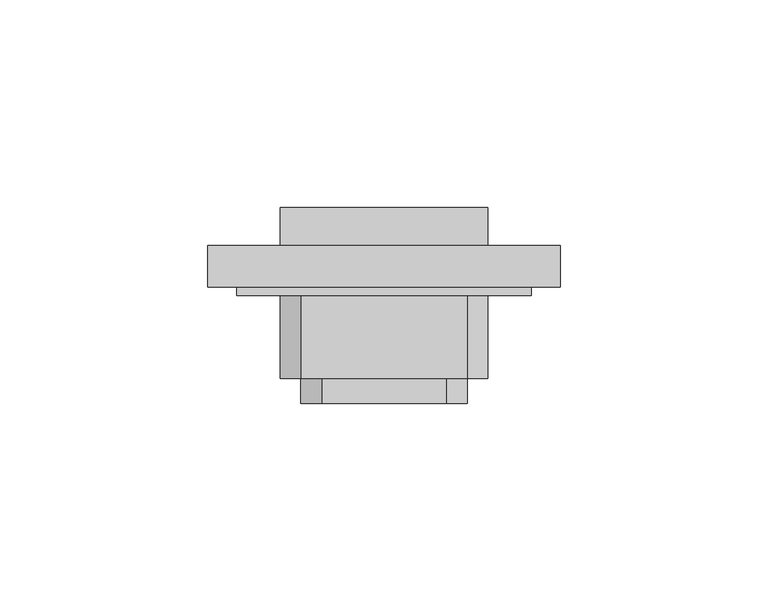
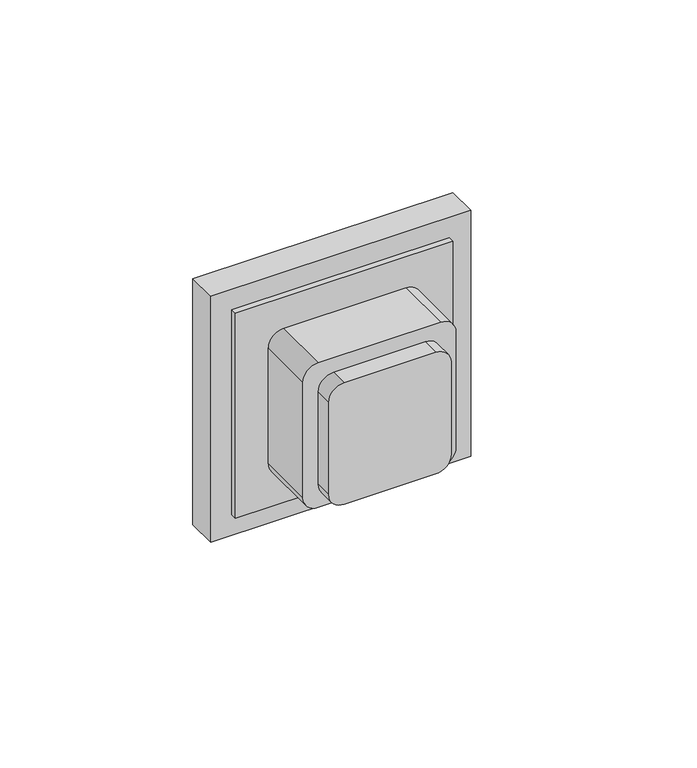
"""IFC4 building model written with IfcOpenShell, lengths in millimetres: proxy geometry, AI_Instal elec_PC 16A +T à 0,30m : PC 16A +T à 0,30m."""

import ifcopenshell
import ifcopenshell.guid

model = None  # the IFC model being written
_history = None  # IfcOwnerHistory: only IFC2X3 demands one
_inside = {}  # id of a spatial element -> (the spatial element, [elements in it])
_under = {}  # id of a project, library or spatial element -> (it, [spatial elements below it])
_declared = {}  # id of a project -> (the project, [libraries it declares])
_typed = {}  # id of a type object -> (the type object, [elements of that type])
_made_of = {}  # id of a material, layer set ... -> (it, [elements and type objects made of it])


def new_model(schema):
    """Start an empty IFC model of exactly this schema.

    Asked for "IFC4X3", IfcOpenShell would pick the latest addendum, in which some entities
    have other attributes; the version numbers below select the first issue.
    IFC2X3 requires an IfcOwnerHistory on every rooted entity: one is made here for all.
    """
    global model, _history
    if schema == "IFC4X3":
        model = ifcopenshell.file(schema_version=(4, 3, 0, 0))
    else:
        model = ifcopenshell.file(schema=schema)
    _inside.clear()
    _under.clear()
    _declared.clear()
    _typed.clear()
    _made_of.clear()
    _history = None
    if model.schema == "IFC2X3":
        org = make("IfcOrganization", Name="unknown")
        user = make(
            "IfcPersonAndOrganization",
            ThePerson=make("IfcPerson", FamilyName="unknown"),
            TheOrganization=org,
        )
        app = make(
            "IfcApplication",
            ApplicationDeveloper=org,
            Version="unknown",
            ApplicationFullName="unknown",
            ApplicationIdentifier="unknown",
        )
        _history = make(
            "IfcOwnerHistory",
            OwningUser=user,
            OwningApplication=app,
            ChangeAction="ADDED",
            CreationDate=0,
        )
    return model


def make(cls, **values):
    """One entity of the class cls with the attributes given. An attribute that is None is left unset."""
    return model.create_entity(
        cls, **{name: value for name, value in values.items() if value is not None}
    )


def rooted(cls, **values):
    """An entity with a GlobalId (a new one), such as an element, a storey or a relation."""
    return make(cls, GlobalId=ifcopenshell.guid.new(), OwnerHistory=_history, **values)


def si_unit(unit_type, name, prefix=None):
    """IfcSIUnit, for example si_unit("LENGTHUNIT", "METRE", prefix="MILLI")."""
    return make("IfcSIUnit", UnitType=unit_type, Prefix=prefix, Name=name)


def assignment(units):
    """IfcUnitAssignment: the units of a project."""
    return None if units is None else make("IfcUnitAssignment", Units=units)


def point(xyz):
    """IfcCartesianPoint."""
    return None if xyz is None else make("IfcCartesianPoint", Coordinates=xyz)


def direction(xyz):
    """IfcDirection."""
    return None if xyz is None else make("IfcDirection", DirectionRatios=xyz)


def frame(location, z_axis=None, x_axis=None):
    """IfcAxis2Placement3D, a coordinate frame: its origin and axes. An axis left out is left unset."""
    return make(
        "IfcAxis2Placement3D",
        Location=point(location),
        Axis=direction(z_axis),
        RefDirection=direction(x_axis),
    )


def frame_2d(location, x_axis=None):
    """IfcAxis2Placement2D, a coordinate frame in the plane: its origin and x axis."""
    return make(
        "IfcAxis2Placement2D", Location=point(location), RefDirection=direction(x_axis)
    )


def origin():
    """The frame at (0, 0, 0) with its axes left unset."""
    return frame((0.0, 0.0, 0.0))


def origin_2d():
    """The frame at (0, 0) in the plane with its x axis left unset."""
    return frame_2d((0.0, 0.0))


def place(relative_to, where):
    """IfcLocalPlacement: puts the frame where relative to a parent placement (None: the world)."""
    return make(
        "IfcLocalPlacement", PlacementRelTo=relative_to, RelativePlacement=where
    )


def context(
    kind, dimensions, precision=None, world=None, true_north=None, identifier=None
):
    """IfcGeometricRepresentationContext, for example the 3D "Model" context."""
    return make(
        "IfcGeometricRepresentationContext",
        ContextIdentifier=identifier,
        ContextType=kind,
        CoordinateSpaceDimension=dimensions,
        Precision=precision,
        WorldCoordinateSystem=world,
        TrueNorth=true_north,
    )


def project(units=None, contexts=None):
    """IfcProject with its units and contexts."""
    return rooted(
        "IfcProject",
        Name="project",
        RepresentationContexts=contexts,
        UnitsInContext=assignment(units),
    )


def spatial(cls, under=None, at=None, **own):
    """A site, building, storey or space (cls), placed at a placement, below another one or the project."""
    s = rooted(cls, ObjectPlacement=at, **own)
    if under is not None:
        _under.setdefault(under.id(), (under, []))[1].append(s)
    return s


def polyline(points):
    """IfcPolyline through the points."""
    return make("IfcPolyline", Points=[point(p) for p in points])


def circle_curve(where, radius):
    """IfcCircle in the frame where."""
    return make("IfcCircle", Position=where, Radius=radius)


def trimmed(basis, trim1, trim2, sense, master):
    """IfcTrimmedCurve: the piece of a basis curve between two trims."""
    return make(
        "IfcTrimmedCurve",
        BasisCurve=basis,
        Trim1=trim1,
        Trim2=trim2,
        SenseAgreement=sense,
        MasterRepresentation=master,
    )


def segment(curve, same_sense, transition):
    """IfcCompositeCurveSegment."""
    return make(
        "IfcCompositeCurveSegment",
        Transition=transition,
        SameSense=same_sense,
        ParentCurve=curve,
    )


def composite_curve(segments, self_intersect=None):
    """IfcCompositeCurve: segments joined end to end."""
    return make("IfcCompositeCurve", Segments=segments, SelfIntersect=self_intersect)


def outline(outer, holes=None, kind="AREA"):
    """IfcArbitraryClosedProfileDef: a profile drawn as a closed curve; with holes, ...WithVoids."""
    if holes is None:
        return make("IfcArbitraryClosedProfileDef", ProfileType=kind, OuterCurve=outer)
    return make(
        "IfcArbitraryProfileDefWithVoids",
        ProfileType=kind,
        OuterCurve=outer,
        InnerCurves=holes,
    )


def extrude(swept, where, along, depth):
    """IfcExtrudedAreaSolid: the profile swept, set in the frame where, extruded along a direction by depth."""
    return make(
        "IfcExtrudedAreaSolid",
        SweptArea=swept,
        Position=where,
        ExtrudedDirection=direction(along),
        Depth=depth,
    )


def shape(context_of_items, identifier, shape_type, items):
    """IfcShapeRepresentation: the items that make up one representation, for example the "Body"."""
    return make(
        "IfcShapeRepresentation",
        ContextOfItems=context_of_items,
        RepresentationIdentifier=identifier,
        RepresentationType=shape_type,
        Items=items,
    )


def source(mapping_origin, context_of_items, identifier, shape_type, items):
    """IfcRepresentationMap: a shape defined once, which mapped items show again and again."""
    return make(
        "IfcRepresentationMap",
        MappingOrigin=mapping_origin,
        MappedRepresentation=shape(context_of_items, identifier, shape_type, items),
    )


def transform(
    local_origin,
    x_axis=None,
    y_axis=None,
    z_axis=None,
    scale=None,
    scale2=None,
    scale3=None,
    uniform=True,
):
    """IfcCartesianTransformationOperator3D, or its non-uniform kind. x_axis, y_axis, z_axis: its Axis1, 2, 3."""
    if uniform:
        return make(
            "IfcCartesianTransformationOperator3D",
            Axis1=direction(x_axis),
            Axis2=direction(y_axis),
            LocalOrigin=point(local_origin),
            Scale=scale,
            Axis3=direction(z_axis),
        )
    return make(
        "IfcCartesianTransformationOperator3DnonUniform",
        Axis1=direction(x_axis),
        Axis2=direction(y_axis),
        LocalOrigin=point(local_origin),
        Scale=scale,
        Axis3=direction(z_axis),
        Scale2=scale2,
        Scale3=scale3,
    )


def mapped(mapping_source, mapping_target):
    """IfcMappedItem: shows the shape of a source again, moved by a transform."""
    return make(
        "IfcMappedItem", MappingSource=mapping_source, MappingTarget=mapping_target
    )


def made_of(thing, what):
    """Note that an element or type object is made of a material, layer set ...; save() writes the relation."""
    if what is not None:
        _made_of.setdefault(what.id(), (what, []))[1].append(thing)
    return thing


def element(
    cls,
    number,
    at=None,
    inside=None,
    cuts=None,
    type_object=None,
    material=None,
    context=None,
    identifier="Body",
    shape_type=None,
    held_by="IfcProductDefinitionShape",
    body=None,
    shapes=None,
    **own,
):
    """One element of the class cls, such as IfcWall. Its Tag is "e" and its number.

    at: its placement. inside: the storey or other place that contains it. cuts: it is an
    opening in that element (IfcRelVoidsElement). A single representation is given by context,
    identifier, shape_type and body (its items); several are given by shapes. held_by: the class
    of the entity that holds the representations. save() writes the other relations.
    """
    e = rooted(cls, Tag="e%d" % number, ObjectPlacement=at, **own)
    if body is not None:
        shapes = [shape(context, identifier, shape_type, body)]
    if shapes is not None:
        e.Representation = make(held_by, Representations=shapes)
    if inside is not None:
        _inside.setdefault(inside.id(), (inside, []))[1].append(e)
    if cuts is not None:
        rooted(
            "IfcRelVoidsElement", RelatingBuildingElement=cuts, RelatedOpeningElement=e
        )
    if type_object is not None:
        _typed.setdefault(type_object.id(), (type_object, []))[1].append(e)
    return made_of(e, material)


def aggregate(whole, parts):
    """IfcRelAggregates: a whole, such as a stair, and the parts it consists of."""
    return rooted("IfcRelAggregates", RelatingObject=whole, RelatedObjects=parts)


def save(model, path):
    """Write the relations noted so far, then the file.

    IfcRelAggregates (storeys below a building ...), IfcRelContainedInSpatialStructure (elements
    in a storey), IfcRelDefinesByType, IfcRelAssociatesMaterial and IfcRelDeclares: one each for
    every whole, place, type object, material and project.
    """
    for whole, parts in _under.values():
        aggregate(whole, parts)
    for where, things in _inside.values():
        rooted(
            "IfcRelContainedInSpatialStructure",
            RelatedElements=things,
            RelatingStructure=where,
        )
    for kind, things in _typed.values():
        rooted("IfcRelDefinesByType", RelatedObjects=things, RelatingType=kind)
    for what, things in _made_of.values():
        rooted("IfcRelAssociatesMaterial", RelatedObjects=things, RelatingMaterial=what)
    for by, libraries in _declared.values():
        rooted("IfcRelDeclares", RelatingContext=by, RelatedDefinitions=libraries)
    model.write(path)


def electrical_fixtures_7208e772(model_context):
    return source(origin(), model_context, "Body", "SweptSolid", [
        extrude(outline(composite_curve([segment(polyline([(15.0, -20.0), (-17.0, -20.0)]), True, "CONTINUOUS"), segment(trimmed(circle_curve(frame_2d((-17.0, -15.0)), 5.0), [point((-17.0, -20.0))], [point((-22.0, -15.0))], False, "CARTESIAN"), True, "CONTINUOUS"), segment(polyline([(-22.0, -15.0), (-22.0, 15.0)]), True, "CONTINUOUS"), segment(trimmed(circle_curve(frame_2d((-17.0, 15.0)), 5.0), [point((-22.0, 15.0))], [point((-17.0, 20.0))], False, "CARTESIAN"), True, "CONTINUOUS"), segment(polyline([(-17.0, 20.0), (15.0, 20.0)]), True, "CONTINUOUS"), segment(trimmed(circle_curve(frame_2d((15.0, 15.0)), 5.0), [point((15.0, 20.0))], [point((20.0, 15.0))], False, "CARTESIAN"), True, "CONTINUOUS"), segment(polyline([(20.0, 15.0), (20.0, -15.0)]), True, "CONTINUOUS"), segment(trimmed(circle_curve(frame_2d((15.0, -15.0)), 5.0), [point((20.0, -15.0))], [point((15.0, -20.0))], False, "CARTESIAN"), True, "CONTINUOUS")], self_intersect=False)), frame((0.0, -28.0, 0.0), z_axis=(0.0, 1.0, 0.0), x_axis=(0.0, 0.0, 1.0)), (0.0, 0.0, 1.0), 6.0),
        extrude(outline(polyline([(-35.5, 0.0), (35.5, 0.0), (35.5, -2.0), (-35.5, -2.0), (-35.5, 0.0)])), frame((0.0, 0.0, -35.5), z_axis=(0.0, 0.0, 1.0), x_axis=(1.0, 0.0, 0.0)), (0.0, 0.0, 1.0), 71.0),
        extrude(outline(composite_curve([segment(polyline([(20.0, -25.0), (-20.0, -25.0)]), True, "CONTINUOUS"), segment(trimmed(circle_curve(frame_2d((-20.0, -20.0)), 5.0), [point((-20.0, -25.0))], [point((-25.0, -20.0))], False, "CARTESIAN"), True, "CONTINUOUS"), segment(polyline([(-25.0, -20.0), (-25.0, 20.0)]), True, "CONTINUOUS"), segment(trimmed(circle_curve(frame_2d((-20.0, 20.0)), 5.0), [point((-25.0, 20.0))], [point((-20.0, 25.0))], False, "CARTESIAN"), True, "CONTINUOUS"), segment(polyline([(-20.0, 25.0), (20.0, 25.0)]), True, "CONTINUOUS"), segment(trimmed(circle_curve(frame_2d((20.0, 20.0)), 5.0), [point((20.0, 25.0))], [point((25.0, 20.0))], False, "CARTESIAN"), True, "CONTINUOUS"), segment(polyline([(25.0, 20.0), (25.0, -20.0)]), True, "CONTINUOUS"), segment(trimmed(circle_curve(frame_2d((20.0, -20.0)), 5.0), [point((25.0, -20.0))], [point((20.0, -25.0))], False, "CARTESIAN"), True, "CONTINUOUS")], self_intersect=False)), frame((0.0, -22.0, 0.0), z_axis=(0.0, 1.0, 0.0), x_axis=(0.0, 0.0, 1.0)), (0.0, 0.0, 1.0), 20.0),
        extrude(outline(polyline([(-42.5, 10.0), (42.5, 10.0), (42.5, 0.0), (-42.5, 0.0), (-42.5, 10.0)])), frame((0.0, 0.0, -42.5), z_axis=(0.0, 0.0, 1.0), x_axis=(1.0, 0.0, 0.0)), (0.0, 0.0, 1.0), 85.0),
        extrude(outline(composite_curve([segment(trimmed(circle_curve(frame_2d((0.0758983, 10.1542946)), 1.6117594), [point((0.0758983, 11.766054))], [point((0.0758983, 8.5425352))], False, "CARTESIAN"), True, "CONTINUOUS"), segment(trimmed(circle_curve(frame_2d((0.0758983, 10.1542946)), 1.6117594), [point((0.0758983, 8.5425352))], [point((0.0758983, 11.766054))], False, "CARTESIAN"), True, "CONTINUOUS")], self_intersect=False)), frame((0.0, 10.0, 0.0), z_axis=(0.0, 1.0, 0.0), x_axis=(0.0, 0.0, 1.0)), (0.0, 0.0, 1.0), 1.2393319),
        extrude(outline(composite_curve([segment(trimmed(circle_curve(frame_2d((0.0758983, -9.8457054)), 1.6117594), [point((0.0758983, -8.233946))], [point((0.0758983, -11.4574648))], False, "CARTESIAN"), True, "CONTINUOUS"), segment(trimmed(circle_curve(frame_2d((0.0758983, -9.8457054)), 1.6117594), [point((0.0758983, -11.4574648))], [point((0.0758983, -8.233946))], False, "CARTESIAN"), True, "CONTINUOUS")], self_intersect=False)), frame((0.0, 10.0, 0.0), z_axis=(0.0, 1.0, 0.0), x_axis=(0.0, 0.0, 1.0)), (0.0, 0.0, 1.0), 1.2393319),
        extrude(outline(composite_curve([segment(trimmed(circle_curve(frame_2d((10.0758983, 0.1542946)), 1.6117594), [point((10.0758983, 1.766054))], [point((10.0758983, -1.4574648))], False, "CARTESIAN"), True, "CONTINUOUS"), segment(trimmed(circle_curve(frame_2d((10.0758983, 0.1542946)), 1.6117594), [point((10.0758983, -1.4574648))], [point((10.0758983, 1.766054))], False, "CARTESIAN"), True, "CONTINUOUS")], self_intersect=False)), frame((0.0, 10.0, 0.0), z_axis=(0.0, 1.0, 0.0), x_axis=(0.0, 0.0, 1.0)), (0.0, 0.0, 1.0), 9.2487018),
        extrude(outline(polyline([(25.0, -25.0), (-25.0, -25.0), (-25.0, 25.0), (25.0, 25.0), (25.0, -25.0)]), holes=[composite_curve([segment(trimmed(circle_curve(origin_2d(), 19.2390834), [point((0.0, 19.2390834))], [point((0.0, -19.2390834))], True, "CARTESIAN"), True, "CONTINUOUS"), segment(trimmed(circle_curve(origin_2d(), 19.2390834), [point((0.0, -19.2390834))], [point((0.0, 19.2390834))], True, "CARTESIAN"), True, "CONTINUOUS")], self_intersect=False)]), frame((0.0, 10.0, 0.0), z_axis=(0.0, 1.0, 0.0), x_axis=(0.0, 0.0, 1.0)), (0.0, 0.0, 1.0), 9.2487018),
        extrude(outline(composite_curve([segment(trimmed(circle_curve(origin_2d(), 10.0), [point((0.0, -10.0))], [point((0.0, 10.0))], False, "CARTESIAN"), True, "CONTINUOUS"), segment(trimmed(circle_curve(origin_2d(), 10.0), [point((0.0, 10.0))], [point((0.0, -10.0))], False, "CARTESIAN"), True, "CONTINUOUS")], self_intersect=False)), frame((0.0, 0.0, 0.0), z_axis=(0.0, 1.0, 0.0), x_axis=(0.0, 0.0, 1.0)), (0.0, 0.0, 1.0), 10.0),
    ])


if __name__ == "__main__":
    model = new_model("IFC4")
    model_context = context("Model", 3, world=origin())
    ifc_project = project(units=[si_unit("LENGTHUNIT", "METRE", prefix="MILLI")], contexts=[model_context])
    site = spatial("IfcSite", under=ifc_project)
    building = spatial("IfcBuilding", under=site)
    placement = place(None, origin())
    electrical_fixtures_shape = electrical_fixtures_7208e772(model_context)
    element("IfcBuildingElementProxy", 1, Name="AI_Instal elec_PC 16A +T à 0,30m : PC 16A +T à 0,30m", ObjectType="AI_Instal elec_PC 16A +T à 0,30m : PC 16A +T à 0,30m", at=placement, inside=building, context=model_context, shape_type="MappedRepresentation", body=[
        mapped(electrical_fixtures_shape, transform((0.0, 0.0, 0.0), x_axis=(1.0, 0.0, 0.0), y_axis=(0.0, 1.0, 0.0), z_axis=(0.0, 0.0, 1.0))),
    ])
    save(model, "model.ifc")
